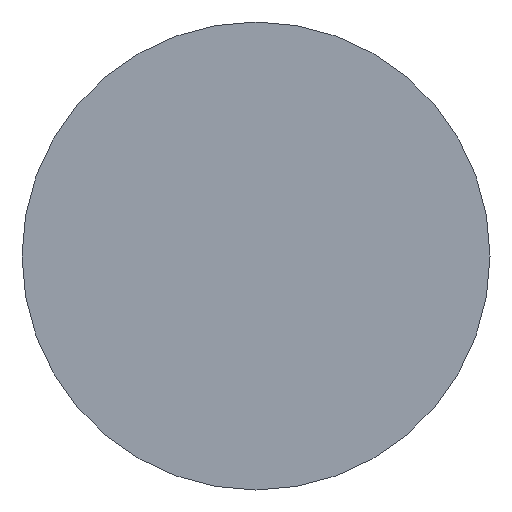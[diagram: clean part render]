
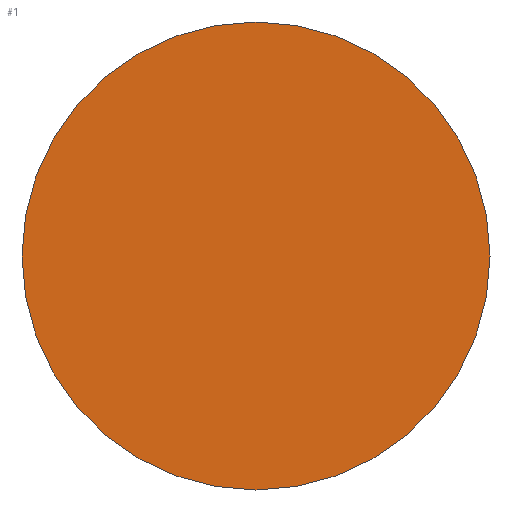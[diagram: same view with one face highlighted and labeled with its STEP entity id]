
A CAD part, left-side view. The second image highlights one B-rep face of the part: STEP entity #1.
In plain terms, the highlighted planar face has unit normal (-1, 0, 0).
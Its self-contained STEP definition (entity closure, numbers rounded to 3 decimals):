
#1 = ADVANCED_FACE ( 'NONE', ( #105 ), #212, .F. ) ;
#3 = EDGE_CURVE ( 'NONE', #135, #247, #113, .T. ) ;
#53 = EDGE_CURVE ( 'NONE', #247, #135, #58, .T. ) ;
#55 = DIRECTION ( 'NONE',  ( 0., 0., -1. ) ) ;
#58 = CIRCLE ( 'NONE', #152, 1.75 ) ;
#73 = DIRECTION ( 'NONE',  ( 0., 0., 1. ) ) ;
#74 = DIRECTION ( 'NONE',  ( -1., 0., 0. ) ) ;
#77 = AXIS2_PLACEMENT_3D ( 'NONE', #188, #250, #55 ) ;
#105 = FACE_OUTER_BOUND ( 'NONE', #166, .T. ) ;
#108 = CARTESIAN_POINT ( 'NONE',  ( 0., 0., 1.75 ) ) ;
#113 = CIRCLE ( 'NONE', #281, 1.75 ) ;
#127 = DIRECTION ( 'NONE',  ( 0., 0., 1. ) ) ;
#135 = VERTEX_POINT ( 'NONE', #277 ) ;
#152 = AXIS2_PLACEMENT_3D ( 'NONE', #243, #74, #73 ) ;
#166 = EDGE_LOOP ( 'NONE', ( #222, #279 ) ) ;
#188 = CARTESIAN_POINT ( 'NONE',  ( 0., 0., 0. ) ) ;
#206 = DIRECTION ( 'NONE',  ( -1., 0., 0. ) ) ;
#208 = CARTESIAN_POINT ( 'NONE',  ( 0., 0., 0. ) ) ;
#212 = PLANE ( 'NONE',  #77 ) ;
#222 = ORIENTED_EDGE ( 'NONE', *, *, #53, .T. ) ;
#243 = CARTESIAN_POINT ( 'NONE',  ( 0., 0., 0. ) ) ;
#247 = VERTEX_POINT ( 'NONE', #108 ) ;
#250 = DIRECTION ( 'NONE',  ( 1., 0., 0. ) ) ;
#277 = CARTESIAN_POINT ( 'NONE',  ( 0., 0., -1.75 ) ) ;
#279 = ORIENTED_EDGE ( 'NONE', *, *, #3, .T. ) ;
#281 = AXIS2_PLACEMENT_3D ( 'NONE', #208, #206, #127 ) ;
